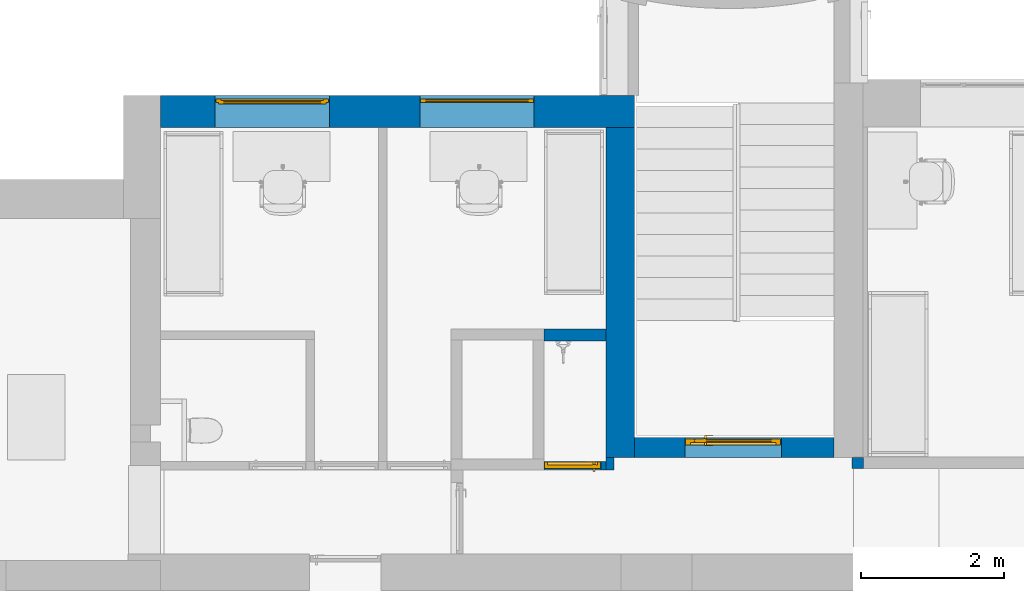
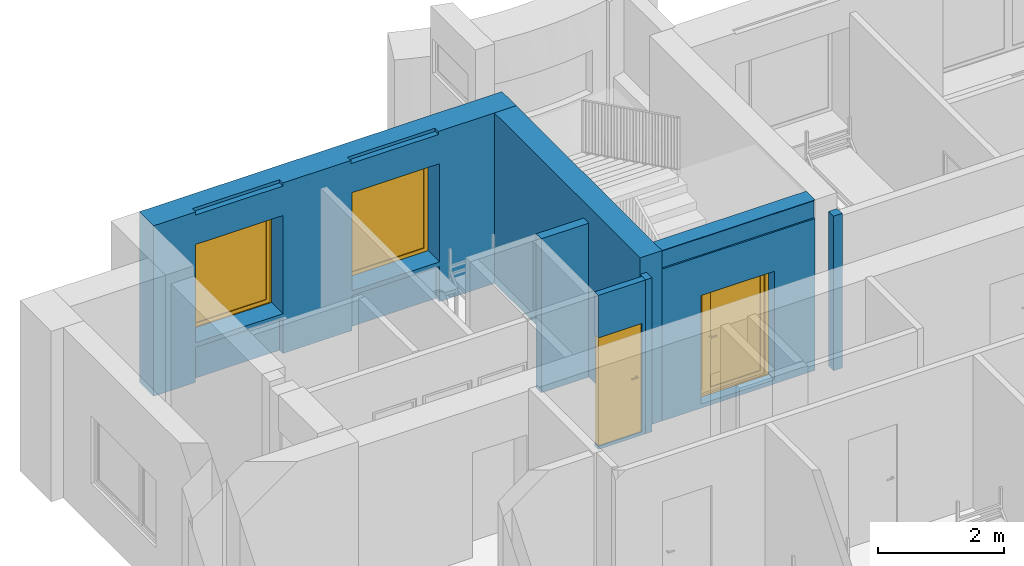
# One storey, part 8 of 46: 7 walls, 2 doors, 2 windows, 9 openings.
"""IFC2X3 building model written with IfcOpenShell, lengths in millimetres."""

from ifc_helpers import new_model, entity, si_unit, converted_unit, derived_unit, direction, frame, frame_2d, origin, origin_2d_with_axis, place, context, subcontext, project, spatial, polyline, rectangle, outline, extrude, clip, bounded_halfspace, faceted_brep, source, transform, mapped, material, material_list, layer, layer_set, layer_usage, type_object, type_shapes, element, fill, save


model = new_model("IFC2X3")

# Units and contexts
model_context = context("Model", 3, precision=0.01, world=origin(), true_north=direction((6.12303176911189e-17, 1.0)))
body_context = subcontext(model_context, "Body", "Model", "MODEL_VIEW")
ifc_project = project(units=[si_unit("LENGTHUNIT", "METRE", prefix="MILLI"), si_unit("AREAUNIT", "SQUARE_METRE"), si_unit("VOLUMEUNIT", "CUBIC_METRE"), converted_unit("PLANEANGLEUNIT", "DEGREE", entity("IfcRatioMeasure", 0.0174532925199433), si_unit("PLANEANGLEUNIT", "RADIAN"), dimensions=[0, 0, 0, 0, 0, 0, 0]), si_unit("MASSUNIT", "GRAM", prefix="KILO"), derived_unit("MASSDENSITYUNIT", [(si_unit("MASSUNIT", "GRAM", prefix="KILO"), 1), (si_unit("LENGTHUNIT", "METRE"), -3)]), si_unit("TIMEUNIT", "SECOND"), si_unit("FREQUENCYUNIT", "HERTZ"), si_unit("THERMODYNAMICTEMPERATUREUNIT", "DEGREE_CELSIUS"), derived_unit("THERMALTRANSMITTANCEUNIT", [(si_unit("MASSUNIT", "GRAM", prefix="KILO"), 1), (si_unit("THERMODYNAMICTEMPERATUREUNIT", "KELVIN"), -1), (si_unit("TIMEUNIT", "SECOND"), -3)]), derived_unit("VOLUMETRICFLOWRATEUNIT", [(si_unit("LENGTHUNIT", "METRE"), 3), (si_unit("TIMEUNIT", "SECOND"), -1)]), si_unit("ELECTRICCURRENTUNIT", "AMPERE"), si_unit("ELECTRICVOLTAGEUNIT", "VOLT"), si_unit("POWERUNIT", "WATT"), si_unit("FORCEUNIT", "NEWTON", prefix="KILO"), si_unit("ILLUMINANCEUNIT", "LUX"), si_unit("LUMINOUSFLUXUNIT", "LUMEN"), si_unit("LUMINOUSINTENSITYUNIT", "CANDELA"), derived_unit("USERDEFINED", [(si_unit("MASSUNIT", "GRAM", prefix="KILO"), -1), (si_unit("LENGTHUNIT", "METRE"), -2), (si_unit("TIMEUNIT", "SECOND"), 3), (si_unit("LUMINOUSFLUXUNIT", "LUMEN"), 1)]), derived_unit("LINEARVELOCITYUNIT", [(si_unit("LENGTHUNIT", "METRE"), 1), (si_unit("TIMEUNIT", "SECOND"), -1)]), si_unit("PRESSUREUNIT", "PASCAL"), derived_unit("USERDEFINED", [(si_unit("LENGTHUNIT", "METRE"), -2), (si_unit("MASSUNIT", "GRAM", prefix="KILO"), 1), (si_unit("TIMEUNIT", "SECOND"), -2)]), derived_unit("LINEARFORCEUNIT", [(si_unit("MASSUNIT", "GRAM", prefix="KILO"), 1), (si_unit("LENGTHUNIT", "METRE"), 1), (si_unit("TIMEUNIT", "SECOND"), -2), (si_unit("LENGTHUNIT", "METRE"), -1)]), derived_unit("PLANARFORCEUNIT", [(si_unit("MASSUNIT", "GRAM", prefix="KILO"), 1), (si_unit("LENGTHUNIT", "METRE"), 1), (si_unit("TIMEUNIT", "SECOND"), -2), (si_unit("LENGTHUNIT", "METRE"), -2)])], contexts=[model_context])

# Site, building, storey
site_placement = place(None, origin())
site = spatial("IfcSite", under=ifc_project, at=site_placement, Name="Default", CompositionType="ELEMENT")
building_placement = place(site_placement, origin())
building = spatial("IfcBuilding", under=site, at=building_placement, Name="SMA ARH", CompositionType="ELEMENT")
storey_placement = place(building_placement, origin())
storey = spatial("IfcBuildingStorey", under=building, at=storey_placement, Name="1 Korrus", CompositionType="ELEMENT", Elevation=0.0)

# Wall, opening, door
ifc_material_1 = material(Name="_ol.olev sein")
ifc_layer_1 = layer(ifc_material_1, 280.0)
ifc_layer_set_1 = layer_set([ifc_layer_1], Name="Basic Wall:Generic - 280mm")
ifc_layer_usage_1 = layer_usage(ifc_layer_set_1, "AXIS2", "POSITIVE", -140.0)
wall_type_1 = type_object("IfcWallType", Name="Basic Wall:Generic - 280mm", PredefinedType="STANDARD", material=ifc_layer_set_1)
wall_1_placement = place(storey_placement, frame((8800.0, 8015.0, 0.0)))
wall_1 = element("IfcWallStandardCase", 1, at=wall_1_placement, inside=storey, type_object=wall_type_1, material=ifc_layer_usage_1, Name="Basic Wall:Generic - 280mm", ObjectType="Basic Wall:Generic - 280mm", context=body_context, shape_type="Clipping", body=[
    clip(extrude(rectangle(XDim=2800.0, YDim=279.999999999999, at=frame_2d((1400.0, 0.0), x_axis=(-1.0, 0.0))), origin(), (0.0, 0.0, 1.0), 3299.99999999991), bounded_halfspace(frame((0.0, -110.0, 2940.0), z_axis=(0.0, 1.0, 0.0), x_axis=(0.0, 0.0, 1.0)), True, frame((0.0, -110.0, 2940.0), z_axis=(0.0, 1.0, 0.0), x_axis=(0.0, 0.0, 1.0)), polyline([(0.0, 0.0), (350.0, 0.0), (350.0, 2800.0), (0.0, 2800.0), (0.0, 0.0)]))),
])
opening_1_placement = place(wall_1_placement, frame((710.0, -140.0, 80.0)))
opening_1 = element("IfcOpeningElement", 2, at=opening_1_placement, cuts=wall_1, Name="SMA_D02, 2-poolne:SU-AL-03 - 1350x2100:1", ObjectType="Opening", context=body_context, shape_type="SweptSolid", body=[
    extrude(rectangle(XDim=2099.99999999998, YDim=1350.0, at=frame_2d((1049.99999999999, 675.0), x_axis=(1.0, 0.0))), frame((0.0, 0.0, 0.0), z_axis=(0.0, 1.0, 0.0), x_axis=(0.0, 0.0, 1.0)), (0.0, 0.0, 1.0), 280.0),
])
ifc_material_2 = material(Name="EST. Metall. Plekk. Värvitud. RAL7023 (Concrete grey)")
ifc_material_3 = material(Name="EST. Klaas. 3x. Default")
ifc_material_list_1 = material_list([ifc_material_2, ifc_material_3])
ifc_material_4 = material(Name="<Unnamed>")
ifc_material_list_2 = material_list([ifc_material_4, ifc_material_4, ifc_material_2, ifc_material_3, ifc_material_4, ifc_material_2, ifc_material_2])
door_style_1 = type_object("IfcDoorStyle", Name="SMA_D02, 2-poolne:SU-AL-03 - 1350x2100", ConstructionType="NOTDEFINED", OperationType="SINGLE_SWING_RIGHT", ParameterTakesPrecedence=False, Sizeable=False, material=ifc_material_list_2)
shared_shape_1 = source(origin(), body_context, "Body", "Brep", [
    faceted_brep([(297.499999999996, 170.0, 1100.0), (297.499999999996, 208.0, 1100.0), (272.499999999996, 208.0, 1100.0), (272.499999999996, 165.0, 1100.0), (392.499999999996, 165.0, 1100.0), (392.499999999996, 170.0, 1100.0), (297.499999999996, 170.0, 1075.0), (392.499999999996, 170.0, 1075.0), (392.499999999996, 165.0, 1075.0), (272.499999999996, 165.0, 1075.0), (272.499999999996, 208.0, 1075.0), (297.499999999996, 208.0, 1075.0)], [[[0, 1, 2, 3, 4, 5]], [[6, 7, 8, 9, 10, 11]], [[1, 0, 6, 11]], [[2, 1, 11, 10]], [[3, 2, 10, 9]], [[4, 3, 9, 8]], [[5, 4, 8, 7]], [[0, 5, 7, 6]]]),
    faceted_brep([(310.0, 208.0, 1125.0), (310.0, 210.0, 1125.0), (260.0, 210.0, 1125.0), (260.0, 208.0, 1125.0), (310.0, 208.0, 1005.0), (260.0, 208.0, 1005.0), (260.0, 210.0, 1005.0), (310.0, 210.0, 1005.0)], [[[0, 1, 2, 3]], [[4, 5, 6, 7]], [[1, 0, 4, 7]], [[2, 1, 7, 6]], [[3, 2, 6, 5]], [[0, 3, 5, 4]]]),
    faceted_brep([(297.499999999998, 300.0, 1100.0), (392.499999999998, 300.0, 1100.0), (392.499999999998, 305.0, 1100.0), (272.499999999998, 305.0, 1100.0), (272.499999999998, 262.0, 1100.0), (297.499999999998, 262.0, 1100.0), (297.499999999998, 300.0, 1075.0), (297.499999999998, 262.0, 1075.0), (272.499999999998, 262.0, 1075.0), (272.499999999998, 305.0, 1075.0), (392.499999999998, 305.0, 1075.0), (392.499999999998, 300.0, 1075.0)], [[[0, 1, 2, 3, 4, 5]], [[6, 7, 8, 9, 10, 11]], [[5, 7, 6, 0]], [[4, 8, 7, 5]], [[3, 9, 8, 4]], [[2, 10, 9, 3]], [[1, 11, 10, 2]], [[0, 6, 11, 1]]]),
    faceted_brep([(310.0, 262.0, 1125.0), (260.0, 262.0, 1125.0), (260.0, 260.0, 1125.0), (310.0, 260.0, 1125.0), (310.0, 262.0, 1005.0), (310.0, 260.0, 1005.0), (260.0, 260.0, 1005.0), (260.0, 262.0, 1005.0)], [[[0, 1, 2, 3]], [[4, 5, 6, 7]], [[3, 5, 4, 0]], [[2, 6, 5, 3]], [[1, 7, 6, 2]], [[0, 4, 7, 1]]]),
    faceted_brep([(1274.5, 170.0, 30.0), (1274.5, 170.0, 0.0), (1274.5, 210.0, 0.0), (1274.5, 210.0, 20.0), (1274.5, 210.0, 30.0), (75.4999999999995, 170.0, 30.0), (75.4999999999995, 210.0, 30.0), (75.4999999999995, 210.0, 20.0), (75.4999999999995, 210.0, 0.0), (75.4999999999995, 170.0, 0.0), (65.4999999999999, 210.0, 0.0), (65.4999999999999, 260.0, 0.0), (1284.5, 260.0, 0.0), (1284.5, 210.0, 0.0), (1284.5, 260.0, 20.0), (1284.5, 210.0, 20.0), (65.4999999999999, 260.0, 20.0), (65.4999999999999, 210.0, 20.0)], [[[0, 1, 2, 3, 4]], [[5, 6, 7, 8, 9]], [[1, 0, 5, 9]], [[2, 1, 9, 8, 10, 11, 12, 13]], [[6, 4, 3, 7]], [[0, 4, 6, 5]], [[14, 15, 13, 12]], [[16, 11, 10, 17]], [[15, 14, 16, 17, 7, 3]], [[13, 15, 3, 2]], [[14, 12, 11, 16]], [[17, 10, 8, 7]]]),
    faceted_brep([(1340.0, 170.0, 0.0), (1274.5, 170.0, 0.0), (1274.5, 210.0, 0.0), (1284.5, 210.0, 0.0), (1284.5, 260.0, 0.0), (1340.0, 260.0, 0.0), (1340.0, 170.0, 2090.0), (10.0, 170.0, 2090.0), (10.0, 170.0, 0.0), (75.4999999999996, 170.0, 0.0), (75.4999999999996, 170.0, 2024.49999999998), (1274.5, 170.0, 2024.49999999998), (1274.5, 210.0, 2024.49999999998), (75.5000000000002, 210.0, 2024.49999999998), (75.5000000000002, 210.0, 0.0), (65.5000000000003, 210.0, 0.0), (65.5000000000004, 210.0, 2034.49999999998), (1284.5, 210.0, 2034.49999999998), (1284.5, 260.0, 2034.49999999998), (65.5, 260.0, 2034.49999999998), (65.5, 260.0, 0.0), (10.0, 260.0, 0.0), (10.0, 260.0, 2090.0), (1340.0, 260.0, 2090.0)], [[[0, 1, 2, 3, 4, 5]], [[1, 0, 6, 7, 8, 9, 10, 11]], [[2, 1, 11, 12]], [[3, 2, 12, 13, 14, 15, 16, 17]], [[4, 3, 17, 18]], [[5, 4, 18, 19, 20, 21, 22, 23]], [[0, 5, 23, 6]], [[8, 7, 22, 21]], [[9, 8, 21, 20, 15, 14]], [[10, 9, 14, 13]], [[16, 15, 20, 19]], [[11, 10, 13, 12]], [[17, 16, 19, 18]], [[7, 6, 23, 22]]]),
    faceted_brep([(140.500000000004, 225.0, 95.0), (140.500000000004, 225.0, 1955.0), (125.0, 225.0, 1955.0), (125.0, 225.0, 95.0), (140.500000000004, 245.0, 95.0), (125.0, 245.0, 95.0), (125.0, 245.0, 1955.0), (140.500000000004, 245.0, 1955.0)], [[[0, 1, 2, 3]], [[4, 5, 6, 7]], [[0, 3, 5, 4]], [[3, 2, 6, 5]], [[2, 1, 7, 6]], [[1, 0, 4, 7]]]),
    faceted_brep([(295.0, 225.0, 95.0), (1209.5, 225.0, 95.0), (1209.5, 225.0, 1955.0), (295.0, 225.0, 1955.0), (295.0, 245.0, 95.0), (295.0, 245.0, 1955.0), (1209.5, 245.0, 1955.0), (1209.5, 245.0, 95.0)], [[[0, 1, 2, 3]], [[4, 5, 6, 7]], [[1, 0, 4, 7]], [[2, 1, 7, 6]], [[3, 2, 6, 5]], [[0, 3, 5, 4]]]),
    faceted_brep([(210.0, 210.0, 2034.49999999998), (65.4999999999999, 210.0, 2034.49999999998), (65.4999999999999, 210.0, 20.0), (210.0, 210.0, 20.0), (140.500000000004, 210.0, 1955.0), (140.500000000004, 210.0, 95.0), (125.0, 210.0, 95.0), (125.0, 210.0, 1955.0), (210.0, 260.0, 2034.49999999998), (210.0, 260.0, 20.0), (65.4999999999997, 260.0, 20.0), (65.4999999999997, 260.0, 2034.49999999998), (140.500000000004, 260.0, 95.0), (140.500000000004, 260.0, 1955.0), (125.0, 260.0, 1955.0), (125.0, 260.0, 95.0)], [[[0, 1, 2, 3], [4, 5, 6, 7]], [[8, 9, 10, 11], [12, 13, 14, 15]], [[1, 0, 8, 11]], [[2, 1, 11, 10]], [[3, 2, 10, 9]], [[0, 3, 9, 8]], [[12, 5, 4, 13]], [[5, 12, 15, 6]], [[6, 15, 14, 7]], [[7, 14, 13, 4]]]),
    faceted_brep([(210.0, 210.0, 2034.49999999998), (210.0, 210.0, 20.0), (1284.5, 210.0, 20.0), (1284.5, 210.0, 2034.49999999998), (295.0, 210.0, 95.0), (295.0, 210.0, 1955.0), (1209.5, 210.0, 1955.0), (1209.5, 210.0, 95.0), (210.0, 260.0, 2034.49999999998), (1284.5, 260.0, 2034.49999999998), (1284.5, 260.0, 20.0), (210.0, 260.0, 20.0), (295.0, 260.0, 1955.0), (295.0, 260.0, 95.0), (1209.5, 260.0, 95.0), (1209.5, 260.0, 1955.0)], [[[0, 1, 2, 3], [4, 5, 6, 7]], [[8, 9, 10, 11], [12, 13, 14, 15]], [[1, 0, 8, 11]], [[2, 1, 11, 10]], [[3, 2, 10, 9]], [[0, 3, 9, 8]], [[12, 5, 4, 13]], [[13, 4, 7, 14]], [[14, 7, 6, 15]], [[5, 12, 15, 6]]]),
])
type_shapes(door_style_1, [shared_shape_1])
door_1_placement = place(opening_1_placement, origin())
door_1 = element("IfcDoor", 3, at=door_1_placement, inside=storey, type_object=door_style_1, material=ifc_material_list_1, Name="SMA_D02, 2-poolne:SU-AL-03 - 1350x2100", ObjectType="SMA_D02, 2-poolne:SU-AL-03 - 1350x2100", OverallHeight=2099.99999999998, OverallWidth=1350.0, context=body_context, shape_type="MappedRepresentation", body=[
    mapped(shared_shape_1, transform((0.0, 0.0, 0.0), scale=1.0)),
])
fill(opening_1, door_1)

# Wall, opening
ifc_layer_2 = layer(ifc_material_1, 400.0)
ifc_layer_set_2 = layer_set([ifc_layer_2], Name="Basic Wall:Generic - 400mm")
ifc_layer_usage_2 = layer_usage(ifc_layer_set_2, "AXIS2", "POSITIVE", -200.0)
wall_type_2 = type_object("IfcWallType", Name="Basic Wall:Generic - 400mm", PredefinedType="STANDARD", material=ifc_layer_set_2)
wall_2_placement = place(storey_placement, frame((8600.0, 12496.2030428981, 0.0), z_axis=(0.0, 0.0, 1.0), x_axis=(0.0, -1.0, 0.0)))
wall_2 = element("IfcWallStandardCase", 4, at=wall_2_placement, inside=storey, type_object=wall_type_2, material=ifc_layer_usage_2, Name="Basic Wall:Generic - 400mm", ObjectType="Basic Wall:Generic - 400mm", context=body_context, shape_type="SweptSolid", body=[
    extrude(rectangle(XDim=4621.20304289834, YDim=400.0, at=frame_2d((2310.60152144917, 5.6843418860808e-14), x_axis=(-1.0, 0.0))), origin(), (0.0, 0.0, 1.0), 3299.99999999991),
])
opening_2_placement = place(wall_2_placement, origin())
element("IfcOpeningElement", 5, at=opening_2_placement, cuts=wall_2, Name="Basic Wall:Generic - 400mm", ObjectType="Opening", context=body_context, shape_type="SweptSolid", body=[
    extrude(rectangle(XDim=670.0, YDim=1140.0, at=frame_2d((0.0, -2.55795384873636e-13), x_axis=(0.0, 1.0))), frame((-1243.79695710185, -1464.0, 3335.0), z_axis=(0.0, 1.0, 0.0), x_axis=(-1.0, 0.0, 0.0)), (0.0, 0.0, 1.0), 3048.0),
])

# Wall, openings, windows
ifc_layer_3 = layer(ifc_material_1, 450.0)
ifc_layer_set_3 = layer_set([ifc_layer_3], Name="Basic Wall:Generic - 450mm")
ifc_layer_usage_3 = layer_usage(ifc_layer_set_3, "AXIS2", "NEGATIVE", 225.0)
wall_type_3 = type_object("IfcWallType", Name="Basic Wall:Generic - 450mm", PredefinedType="STANDARD", material=ifc_layer_set_3)
wall_3_placement = place(storey_placement, frame((2165.0, 12721.2030428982, 0.0)))
wall_3 = element("IfcWallStandardCase", 6, at=wall_3_placement, inside=storey, type_object=wall_type_3, material=ifc_layer_usage_3, Name="Basic Wall:Generic - 450mm", ObjectType="Basic Wall:Generic - 450mm", context=body_context, shape_type="SweptSolid", body=[
    extrude(rectangle(XDim=6635.0, YDim=450.000000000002, at=frame_2d((3317.5, 2.27373675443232e-13), x_axis=(-1.0, 0.0))), origin(), (0.0, 0.0, 1.0), 3300.00000000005),
])
opening_3_placement = place(wall_3_placement, origin())
element("IfcOpeningElement", 7, at=opening_3_placement, cuts=wall_3, Name="Basic Wall:Generic - 450mm", ObjectType="Recess", context=body_context, shape_type="SweptSolid", body=[
    extrude(rectangle(XDim=757.825710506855, YDim=1600.0, at=frame_2d((0.0, -5.11590769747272e-13), x_axis=(1.0, 0.0))), frame((4410.0, -225.0, 3618.91285525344), z_axis=(0.0, 1.0, 0.0), x_axis=(0.0, 0.0, -1.0)), (0.0, 0.0, 1.0), 103.796957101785),
    extrude(rectangle(XDim=757.825710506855, YDim=1600.0, at=origin_2d_with_axis()), frame((1565.0, -225.0, 3618.91285525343), z_axis=(0.0, 1.0, 0.0), x_axis=(0.0, 0.0, -1.0)), (0.0, 0.0, 1.0), 103.796957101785),
    extrude(rectangle(XDim=680.000000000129, YDim=1600.0, at=frame_2d((8.5265128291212e-14, -5.11590769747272e-13), x_axis=(1.0, 0.0))), frame((4430.0, -225.0, 340.0), z_axis=(0.0, 1.0, 0.0), x_axis=(0.0, 0.0, -1.0)), (0.0, 0.0, 1.0), 103.796957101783),
    extrude(rectangle(XDim=680.000000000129, YDim=1600.0, at=frame_2d((8.5265128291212e-14, 5.11590769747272e-13), x_axis=(1.0, 0.0))), frame((1565.0, -225.0, 340.0), z_axis=(0.0, 1.0, 0.0), x_axis=(0.0, 0.0, -1.0)), (0.0, 0.0, 1.0), 103.796957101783),
])
opening_4_placement = place(wall_3_placement, origin())
element("IfcOpeningElement", 8, at=opening_4_placement, cuts=wall_3, Name="Basic Wall:Generic - 450mm", ObjectType="Opening", context=body_context, shape_type="SweptSolid", body=[
    extrude(rectangle(XDim=2099.99999999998, YDim=400.0, at=frame_2d((0.0, 0.0), x_axis=(0.0, 1.0))), frame((6345.0, 223.796957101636, -350.0), z_axis=(0.0, 1.0, 0.0), x_axis=(1.0, 0.0, 0.0)), (0.0, 0.0, 1.0), 1250.0),
])
opening_5_placement = place(wall_3_placement, origin())
element("IfcOpeningElement", 9, at=opening_5_placement, cuts=wall_3, Name="Basic Wall:Generic - 450mm", ObjectType="Opening", context=body_context, shape_type="SweptSolid", body=[
    extrude(rectangle(XDim=670.0, YDim=349.999999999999, at=frame_2d((-5.40012479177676e-13, 2.55795384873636e-13), x_axis=(0.0, 1.0))), frame((6320.0, 448.796957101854, 3335.0), z_axis=(0.0, 1.0, 0.0), x_axis=(1.0, 0.0, 0.0)), (0.0, 0.0, 1.0), 1140.0),
])
opening_6_placement = place(wall_3_placement, frame((765.0, -225.0, 770.0)))
opening_6 = element("IfcOpeningElement", 10, at=opening_6_placement, cuts=wall_3, Name="SMA_W1, 1-jaotus1:A-00_1650x1900 mm:1", ObjectType="Opening", context=body_context, shape_type="SweptSolid", body=[
    extrude(rectangle(XDim=1900.0, YDim=1600.0, at=frame_2d((950.0, 800.0), x_axis=(1.0, 0.0))), frame((0.0, 0.0, 0.0), z_axis=(0.0, 1.0, 0.0), x_axis=(0.0, 0.0, 1.0)), (0.0, 0.0, 1.0), 450.0),
])
opening_7_placement = place(wall_3_placement, frame((3630.0, -225.0, 770.0)))
opening_7 = element("IfcOpeningElement", 11, at=opening_7_placement, cuts=wall_3, Name="SMA_W1, 1-jaotus1:A-02_1650x1900 mm kinni EI-30:1", ObjectType="Opening", context=body_context, shape_type="SweptSolid", body=[
    extrude(rectangle(XDim=1900.0, YDim=1600.0, at=frame_2d((950.0, 800.0), x_axis=(1.0, 0.0))), frame((0.0, 0.0, 0.0), z_axis=(0.0, 1.0, 0.0), x_axis=(0.0, 0.0, 1.0)), (0.0, 0.0, 1.0), 450.0),
])
ifc_material_5 = material(Name="Default")
ifc_material_list_3 = material_list([ifc_material_3, ifc_material_5])
ifc_material_list_4 = material_list([ifc_material_3, ifc_material_5, ifc_material_4, ifc_material_5, ifc_material_4])
window_style_1 = type_object("IfcWindowStyle", Name="SMA_W1, 1-jaotus1:A-00_1650x1900 mm", ConstructionType="NOTDEFINED", OperationType="NOTDEFINED", ParameterTakesPrecedence=False, Sizeable=False, material=ifc_material_list_4)
shared_shape_2 = source(origin(), body_context, "Body", "SweptSolid", [
    extrude(rectangle(XDim=20.0, YDim=1370.0, at=frame_2d((1.68753899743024e-14, -1.13686837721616e-13), x_axis=(1.0, 0.0))), frame((800.0, 350.0, 115.0), z_axis=(0.0, 0.0, 1.0), x_axis=(0.0, 1.0, 0.0)), (0.0, 0.0, 1.0), 1670.0),
    extrude(outline(polyline([(-905.0, -755.0), (905.0, -755.0), (905.0, 755.0), (-905.0, 755.0), (-905.0, -755.0)]), holes=[polyline([(835.0, 685.0), (835.0, -685.0), (-835.0, -685.0), (-835.0, 685.0), (835.0, 685.0)])]), frame((800.0, 325.0, 950.0), z_axis=(0.0, 1.0, 0.0), x_axis=(0.0, 0.0, 1.0)), (0.0, 0.0, 1.0), 50.0),
    extrude(outline(polyline([(-940.0, -790.0), (940.0, -790.0), (940.0, 790.0), (-940.0, 790.0), (-940.0, -790.0)]), holes=[polyline([(-870.0, -720.0), (-870.0, 720.0), (870.0, 720.0), (870.0, -720.0), (-870.0, -720.0)])]), frame((800.0, 350.0, 950.0), z_axis=(0.0, 1.0, 0.0), x_axis=(0.0, 0.0, 1.0)), (0.0, 0.0, 1.0), 50.0),
])
type_shapes(window_style_1, [shared_shape_2])
window_1_placement = place(opening_6_placement, origin())
window_1 = element("IfcWindow", 12, at=window_1_placement, inside=storey, type_object=window_style_1, material=ifc_material_list_3, Name="SMA_W1, 1-jaotus1:A-00_1650x1900 mm", ObjectType="SMA_W1, 1-jaotus1:A-00_1650x1900 mm", OverallHeight=1900.0, OverallWidth=1600.0, context=body_context, shape_type="MappedRepresentation", body=[
    mapped(shared_shape_2, transform((0.0, 0.0, 0.0), scale=1.0)),
])
fill(opening_6, window_1)
ifc_material_list_5 = material_list([ifc_material_5, ifc_material_3])
ifc_material_list_6 = material_list([ifc_material_5, ifc_material_3, ifc_material_4, ifc_material_4, ifc_material_5])
window_style_2 = type_object("IfcWindowStyle", Name="SMA_W1, 1-jaotus1:A-02_1650x1900 mm kinni EI-30", ConstructionType="NOTDEFINED", OperationType="NOTDEFINED", ParameterTakesPrecedence=False, Sizeable=False, material=ifc_material_list_6)
shared_shape_3 = source(origin(), body_context, "Body", "SweptSolid", [
    extrude(outline(polyline([(-940.0, -790.0), (940.0, -790.0), (940.0, 790.0), (-940.0, 790.0), (-940.0, -790.0)]), holes=[polyline([(-870.0, -720.0), (-870.0, 720.0), (870.0, 720.0), (870.0, -720.0), (-870.0, -720.0)])]), frame((800.0, 350.0, 950.0), z_axis=(0.0, 1.0, 0.0), x_axis=(0.0, 0.0, 1.0)), (0.0, 0.0, 1.0), 50.0),
    extrude(rectangle(XDim=20.0, YDim=1440.0, at=frame_2d((-8.88178419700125e-15, 5.6843418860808e-14), x_axis=(1.0, 0.0))), frame((800.0, 375.0, 80.0), z_axis=(0.0, 0.0, 1.0), x_axis=(0.0, 1.0, 0.0)), (0.0, 0.0, 1.0), 1740.0),
])
type_shapes(window_style_2, [shared_shape_3])
window_2_placement = place(opening_7_placement, origin())
window_2 = element("IfcWindow", 13, at=window_2_placement, inside=storey, type_object=window_style_2, material=ifc_material_list_5, Name="SMA_W1, 1-jaotus1:A-02_1650x1900 mm kinni EI-30", ObjectType="SMA_W1, 1-jaotus1:A-02_1650x1900 mm kinni EI-30", OverallHeight=1900.0, OverallWidth=1600.0, context=body_context, shape_type="MappedRepresentation", body=[
    mapped(shared_shape_3, transform((0.0, 0.0, 0.0), scale=1.0)),
])
fill(opening_7, window_2)

# Walls
ifc_material_6 = material(Name="EST. Ehitusplaat. Kipsplaat")
ifc_layer_4 = layer(ifc_material_6, 12.5)
ifc_layer_5 = layer(ifc_material_6, 12.5)
ifc_material_7 = material(Name="EST. Soojustus. Mineraalvill. Default")
ifc_layer_6 = layer(ifc_material_7, 50.0)
ifc_layer_7 = layer(ifc_material_6, 12.5)
ifc_layer_8 = layer(ifc_material_7, 50.0)
ifc_layer_9 = layer(ifc_material_6, 12.5)
ifc_layer_10 = layer(ifc_material_6, 12.5)
ifc_layer_set_4 = layer_set([ifc_layer_4, ifc_layer_5, ifc_layer_6, ifc_layer_7, ifc_layer_8, ifc_layer_9, ifc_layer_10], Name="Basic Wall:SS-04_Kips, 50+50 mm metallkarkass 2")
ifc_layer_usage_4 = layer_usage(ifc_layer_set_4, "AXIS2", "NEGATIVE", 81.25)
wall_type_4 = type_object("IfcWallType", Name="Basic Wall:SS-04_Kips, 50+50 mm metallkarkass 2", PredefinedType="STANDARD", material=ifc_layer_set_4)
wall_4_placement = place(storey_placement, frame((7533.72495019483, 9588.75000000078, 0.0)))
element("IfcWallStandardCase", 14, at=wall_4_placement, inside=storey, type_object=wall_type_4, material=ifc_layer_usage_4, Name="Basic Wall:SS-04_Kips, 50+50 mm metallkarkass 2", ObjectType="Basic Wall:SS-04_Kips, 50+50 mm metallkarkass 2", context=body_context, shape_type="SweptSolid", body=[
    extrude(rectangle(XDim=866.275049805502, YDim=162.5, at=frame_2d((433.137524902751, 2.8421709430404e-14), x_axis=(-1.0, 0.0))), origin(), (0.0, 0.0, 1.0), 2979.99999999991),
])
ifc_layer_usage_5 = layer_usage(ifc_layer_set_4, "AXIS2", "NEGATIVE", 81.25)
wall_5_placement = place(storey_placement, frame((11927.5000000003, 7875.0, 0.0), z_axis=(0.0, 0.0, 1.0), x_axis=(0.0, -1.0, 0.0)))
element("IfcWallStandardCase", 15, at=wall_5_placement, inside=storey, type_object=wall_type_4, material=ifc_layer_usage_5, Name="Basic Wall:SS-04_Kips, 50+50 mm metallkarkass 2", ObjectType="Basic Wall:SS-04_Kips, 50+50 mm metallkarkass 2", context=body_context, shape_type="SweptSolid", body=[
    extrude(rectangle(XDim=154.999999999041, YDim=162.500000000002, at=frame_2d((77.4999999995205, 0.0), x_axis=(-1.0, 0.0))), origin(), (0.0, 0.0, 1.0), 2989.99999999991),
])

# Wall, opening, door
ifc_layer_11 = layer(ifc_material_6, 12.5)
ifc_layer_12 = layer(ifc_material_6, 12.5)
ifc_layer_13 = layer(ifc_material_7, 66.0)
ifc_layer_14 = layer(ifc_material_6, 12.5)
ifc_layer_15 = layer(ifc_material_6, 12.5)
ifc_layer_set_5 = layer_set([ifc_layer_11, ifc_layer_12, ifc_layer_13, ifc_layer_14, ifc_layer_15], Name="Basic Wall:SS-05_Kips, 66mm metallkarkass")
ifc_layer_usage_6 = layer_usage(ifc_layer_set_5, "AXIS2", "NEGATIVE", 58.0)
wall_type_5 = type_object("IfcWallType", Name="Basic Wall:SS-05_Kips, 66mm metallkarkass", PredefinedType="STANDARD", material=ifc_layer_set_5)
wall_6_placement = place(storey_placement, frame((7533.72495019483, 7758.0, 0.0)))
wall_6 = element("IfcWallStandardCase", 16, at=wall_6_placement, inside=storey, type_object=wall_type_5, material=ifc_layer_usage_6, Name="Basic Wall:SS-05_Kips, 66mm metallkarkass", ObjectType="Basic Wall:SS-05_Kips, 66mm metallkarkass", context=body_context, shape_type="SweptSolid", body=[
    extrude(rectangle(XDim=866.275049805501, YDim=116.0, at=frame_2d((433.137524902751, -4.9737991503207e-14), x_axis=(-1.0, 0.0))), origin(), (0.0, 0.0, 1.0), 2979.99999999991),
])
opening_8_placement = place(wall_6_placement, frame((800.0, 58.0, 60.0)))
opening_8 = element("IfcOpeningElement", 17, at=opening_8_placement, cuts=wall_6, Name="SMA_D01, 1-poolne:SU-M-07 - 800x2100 KORIS.:1", ObjectType="Opening", context=body_context, shape_type="SweptSolid", body=[
    extrude(rectangle(XDim=2099.99999999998, YDim=800.0, at=frame_2d((1049.99999999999, 400.0), x_axis=(1.0, 0.0))), frame((0.0, 0.0, 0.0), z_axis=(0.0, -1.0, 0.0), x_axis=(0.0, 0.0, 1.0)), (0.0, 0.0, 1.0), 116.0),
])
ifc_material_8 = material(Name="EST. Metall. Alumiinium. Värvitud. RAL7023 (Concrete grey)")
ifc_material_list_7 = material_list([ifc_material_4, ifc_material_4, ifc_material_8, ifc_material_4, ifc_material_8, ifc_material_3, ifc_material_8])
door_style_2 = type_object("IfcDoorStyle", Name="SMA_D01, 1-poolne:SU-M-07 - 800x2100 KORIS.", ConstructionType="NOTDEFINED", OperationType="SINGLE_SWING_RIGHT", ParameterTakesPrecedence=False, Sizeable=False, material=ifc_material_list_7)
shared_shape_4 = source(origin(), body_context, "Body", "Brep", [
    faceted_brep([(110.0, 6.0, 1112.5), (110.0, 44.0, 1112.5), (85.0, 44.0, 1112.5), (85.0, 1.0, 1112.5), (205.0, 1.0, 1112.5), (205.0, 6.0, 1112.5), (110.0, 6.0, 1087.5), (205.0, 6.0, 1087.5), (205.0, 1.0, 1087.5), (85.0, 1.0, 1087.5), (85.0, 44.0, 1087.5), (110.0, 44.0, 1087.5)], [[[0, 1, 2, 3, 4, 5]], [[6, 7, 8, 9, 10, 11]], [[1, 0, 6, 11]], [[2, 1, 11, 10]], [[3, 2, 10, 9]], [[4, 3, 9, 8]], [[5, 4, 8, 7]], [[0, 5, 7, 6]]]),
    faceted_brep([(122.5, 44.0, 1137.5), (122.5, 46.0, 1137.5), (72.4999999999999, 46.0, 1137.5), (72.4999999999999, 44.0, 1137.5), (122.5, 44.0, 1017.5), (72.4999999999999, 44.0, 1017.5), (72.4999999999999, 46.0, 1017.5), (122.5, 46.0, 1017.5)], [[[0, 1, 2, 3]], [[4, 5, 6, 7]], [[1, 0, 4, 7]], [[2, 1, 7, 6]], [[3, 2, 6, 5]], [[0, 3, 5, 4]]]),
    faceted_brep([(110.0, 136.0, 1112.5), (205.0, 136.0, 1112.5), (205.0, 141.0, 1112.5), (85.0, 141.0, 1112.5), (85.0, 98.0, 1112.5), (110.0, 98.0, 1112.5), (110.0, 136.0, 1087.5), (110.0, 98.0, 1087.5), (85.0, 98.0, 1087.5), (85.0, 141.0, 1087.5), (205.0, 141.0, 1087.5), (205.0, 136.0, 1087.5)], [[[0, 1, 2, 3, 4, 5]], [[6, 7, 8, 9, 10, 11]], [[5, 7, 6, 0]], [[4, 8, 7, 5]], [[3, 9, 8, 4]], [[2, 10, 9, 3]], [[1, 11, 10, 2]], [[0, 6, 11, 1]]]),
    faceted_brep([(122.5, 98.0, 1137.5), (72.4999999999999, 98.0, 1137.5), (72.4999999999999, 96.0, 1137.5), (122.5, 96.0, 1137.5), (122.5, 98.0, 1017.5), (122.5, 96.0, 1017.5), (72.4999999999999, 96.0, 1017.5), (72.4999999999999, 98.0, 1017.5)], [[[0, 1, 2, 3]], [[4, 5, 6, 7]], [[3, 5, 4, 0]], [[2, 6, 5, 3]], [[1, 7, 6, 2]], [[0, 4, 7, 1]]]),
    faceted_brep([(750.0, 6.0, 30.0), (750.0, 6.0, 0.0), (750.0, 46.0, 0.0), (750.0, 46.0, 20.0), (750.0, 46.0, 30.0), (50.0, 6.0, 30.0), (50.0, 46.0, 30.0), (50.0, 46.0, 20.0), (50.0, 46.0, 0.0), (50.0, 6.0, 0.0), (35.0, 46.0, 0.0), (35.0, 96.0, 0.0), (765.0, 96.0, 0.0), (765.0, 46.0, 0.0), (765.0, 96.0, 20.0), (765.0, 46.0, 20.0), (35.0, 96.0, 20.0), (35.0, 46.0, 20.0)], [[[0, 1, 2, 3, 4]], [[5, 6, 7, 8, 9]], [[1, 0, 5, 9]], [[2, 1, 9, 8, 10, 11, 12, 13]], [[6, 4, 3, 7]], [[0, 4, 6, 5]], [[14, 15, 13, 12]], [[16, 11, 10, 17]], [[15, 14, 16, 17, 7, 3]], [[13, 15, 3, 2]], [[14, 12, 11, 16]], [[17, 10, 8, 7]]]),
    faceted_brep([(790.0, 6.0, 0.0), (750.0, 6.0, 0.0), (750.0, 46.0, 0.0), (765.0, 46.0, 0.0), (765.0, 96.0, 0.0), (790.0, 96.0, 0.0), (790.0, 6.0, 2090.0), (10.0, 6.0, 2090.0), (10.0, 6.0, 0.0), (50.0, 6.0, 0.0), (50.0, 6.0, 2050.0), (750.0, 6.0, 2050.0), (750.0, 46.0, 2050.0), (50.0, 46.0, 2050.0), (50.0, 46.0, 0.0), (35.0, 46.0, 0.0), (35.0, 46.0, 2065.0), (765.0, 46.0, 2065.0), (765.0, 96.0, 2065.0), (35.0, 96.0, 2065.0), (35.0, 96.0, 0.0), (10.0, 96.0, 0.0), (10.0, 96.0, 2090.0), (790.0, 96.0, 2090.0)], [[[0, 1, 2, 3, 4, 5]], [[1, 0, 6, 7, 8, 9, 10, 11]], [[2, 1, 11, 12]], [[3, 2, 12, 13, 14, 15, 16, 17]], [[4, 3, 17, 18]], [[5, 4, 18, 19, 20, 21, 22, 23]], [[0, 5, 23, 6]], [[8, 7, 22, 21]], [[9, 8, 21, 20, 15, 14]], [[10, 9, 14, 13]], [[16, 15, 20, 19]], [[11, 10, 13, 12]], [[17, 16, 19, 18]], [[7, 6, 23, 22]]]),
    faceted_brep([(35.0, 46.0, 2065.0), (35.0, 46.0, 20.0), (765.0, 46.0, 20.0), (765.0, 46.0, 2065.0), (35.0, 96.0, 2065.0), (765.0, 96.0, 2065.0), (765.0, 96.0, 20.0), (35.0, 96.0, 20.0)], [[[0, 1, 2, 3]], [[4, 5, 6, 7]], [[1, 0, 4, 7]], [[2, 1, 7, 6]], [[3, 2, 6, 5]], [[0, 3, 5, 4]]]),
])
type_shapes(door_style_2, [shared_shape_4])
door_2_placement = place(opening_8_placement, frame((0.0, 0.0, 0.0), z_axis=(0.0, 0.0, 1.0), x_axis=(-1.0, 0.0, 0.0)))
door_2 = element("IfcDoor", 18, at=door_2_placement, inside=storey, type_object=door_style_2, material=ifc_material_8, Name="SMA_D01, 1-poolne:SU-M-07 - 800x2100 KORIS.", ObjectType="SMA_D01, 1-poolne:SU-M-07 - 800x2100 KORIS.", OverallHeight=2099.99999999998, OverallWidth=800.0, context=body_context, shape_type="MappedRepresentation", body=[
    mapped(shared_shape_4, transform((0.0, 0.0, 0.0), scale=1.0)),
])
fill(opening_8, door_2)

# Wall, opening
ifc_layer_usage_7 = layer_usage(ifc_layer_set_5, "AXIS2", "NEGATIVE", 58.0)
wall_7_placement = place(storey_placement, frame((8458.0, 7700.0, 0.0), z_axis=(0.0, 0.0, 1.0), x_axis=(0.0, 1.0, 0.0)))
wall_7 = element("IfcWallStandardCase", 19, at=wall_7_placement, inside=storey, type_object=wall_type_5, material=ifc_layer_usage_7, Name="Basic Wall:SS-05_Kips, 66mm metallkarkass", ObjectType="Basic Wall:SS-05_Kips, 66mm metallkarkass", context=body_context, shape_type="SweptSolid", body=[
    extrude(rectangle(XDim=174.999999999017, YDim=116.0, at=frame_2d((87.4999999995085, 0.0), x_axis=(-1.0, 0.0))), origin(), (0.0, 0.0, 1.0), 2979.99999999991),
])
opening_9_placement = place(wall_7_placement, origin())
element("IfcOpeningElement", 20, at=opening_9_placement, cuts=wall_7, Name="Basic Wall:SS-05_Kips, 66mm metallkarkass", ObjectType="Opening", context=body_context, shape_type="SweptSolid", body=[
    extrude(rectangle(XDim=2099.99999999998, YDim=116.0, at=frame_2d((0.0, 0.0), x_axis=(0.0, 1.0))), frame((58.0, 124.2750498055, 1110.0), z_axis=(0.0, 1.0, 0.0), x_axis=(-1.0, 0.0, 0.0)), (0.0, 0.0, 1.0), 800.0),
])

save(model, "model.ifc")
